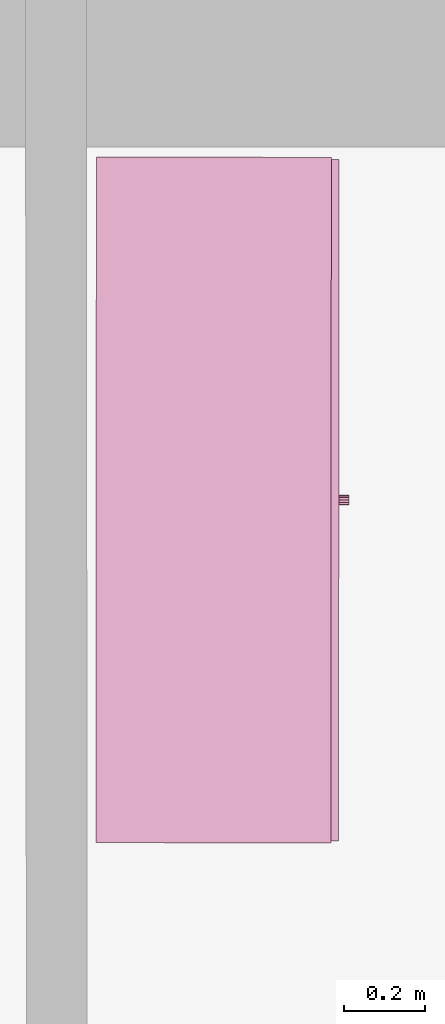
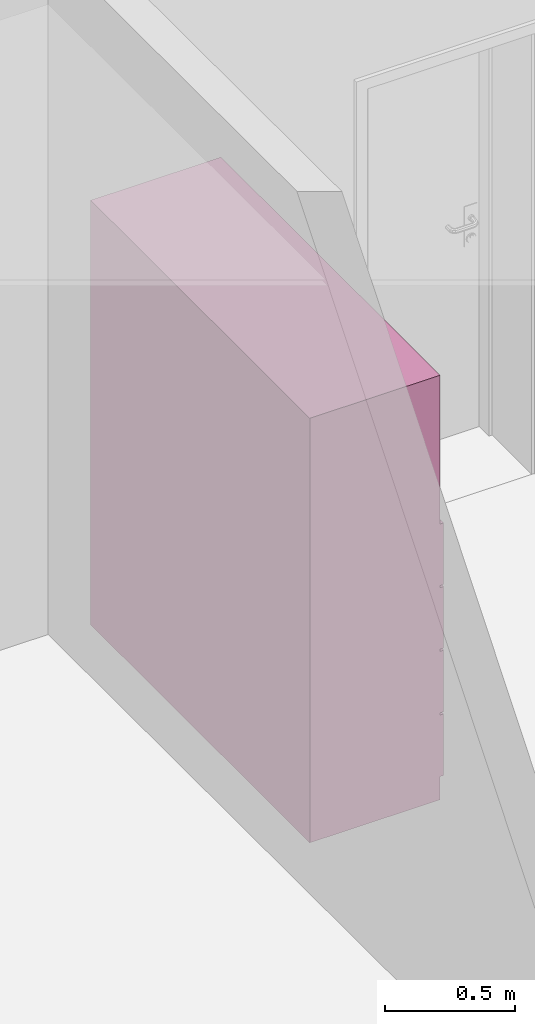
# One storey, part 138 of 194: 1 furnishing.
"""IFC2X3 building model written with IfcOpenShell, lengths in millimetres."""

from ifc_helpers import new_model, entity, si_unit, converted_unit, derived_unit, money_unit, direction, frame, origin_with_axes, place, context, subcontext, project, spatial, faceted_brep, source, transform, mapped, type_object, element, save


model = new_model("IFC2X3")

# Units and contexts
model_context = context("Model", 3, precision=1e-05, world=origin_with_axes(), true_north=direction((0.0, 1.0)))
body_context = subcontext(model_context, "Body", "Model", "MODEL_VIEW")
ifc_project = project(units=[si_unit("LENGTHUNIT", "METRE", prefix="MILLI"), si_unit("AREAUNIT", "SQUARE_METRE"), si_unit("VOLUMEUNIT", "CUBIC_METRE"), converted_unit("PLANEANGLEUNIT", "DEGREE", entity("IfcPlaneAngleMeasure", 0.0174532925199), si_unit("PLANEANGLEUNIT", "RADIAN"), dimensions=[0, 0, 0, 0, 0, 0, 0]), si_unit("SOLIDANGLEUNIT", "STERADIAN"), money_unit("EUR"), converted_unit("TIMEUNIT", "Year", entity("IfcTimeMeasure", 31556926.0), si_unit("TIMEUNIT", "SECOND"), dimensions=[0, 0, 1, 0, 0, 0, 0]), si_unit("MASSUNIT", "GRAM", prefix="KILO"), si_unit("THERMODYNAMICTEMPERATUREUNIT", "DEGREE_CELSIUS"), si_unit("LUMINOUSINTENSITYUNIT", "LUMEN"), si_unit("ENERGYUNIT", "JOULE", prefix="MEGA"), derived_unit("THERMALCONDUCTANCEUNIT", [(si_unit("POWERUNIT", "WATT"), 1), (si_unit("LENGTHUNIT", "METRE"), -1), (si_unit("THERMODYNAMICTEMPERATUREUNIT", "KELVIN"), -1)]), derived_unit("SPECIFICHEATCAPACITYUNIT", [(si_unit("ENERGYUNIT", "JOULE"), 1), (si_unit("MASSUNIT", "GRAM", prefix="KILO"), -1), (si_unit("THERMODYNAMICTEMPERATUREUNIT", "KELVIN"), -1)]), derived_unit("MASSDENSITYUNIT", [(si_unit("MASSUNIT", "GRAM", prefix="KILO"), 1), (si_unit("VOLUMEUNIT", "CUBIC_METRE"), -1)])], contexts=[model_context])

# Site, building, storey
site_placement = place(None, origin_with_axes())
site = spatial("IfcSite", under=ifc_project, at=site_placement, Name="Site", CompositionType="ELEMENT")
building_placement = place(site_placement, origin_with_axes())
building = spatial("IfcBuilding", under=site, at=building_placement, Name="Building", CompositionType="ELEMENT")
storey_placement = place(building_placement, frame((0.0, 0.0, 3000.0), z_axis=(0.0, 0.0, 1.0), x_axis=(1.0, 0.0, 0.0)))
storey = spatial("IfcBuildingStorey", under=building, at=storey_placement, Name="2 KORRUS", CompositionType="ELEMENT", Elevation=3000.0)

# Furnishing
furnishing_element_type = type_object("IfcFurnishingElementType", Name="Model Element 52")
shared_shape = source(origin_with_axes(), body_context, "Body", "Brep", [
    faceted_brep([(1693.4828307, 19.0, 0.0), (0.0, 19.0, 0.0), (0.0, 599.467164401, 0.0), (1693.4828307, 599.467164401, 0.0), (1693.4828307, 19.0, 100.0), (0.0, 19.0, 100.0), (0.0, 599.467164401, 100.0), (1693.4828307, 599.467164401, 100.0)], [[[0, 1, 2, 3]], [[1, 0, 4, 5]], [[2, 1, 5, 6]], [[3, 2, 6, 7]], [[0, 3, 7, 4]], [[5, 4, 7, 6]]]),
    faceted_brep([(19.0, 599.467164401, 119.0), (19.0, 580.467164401, 119.0), (19.0, 580.467164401, 1981.0), (19.0, 599.467164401, 1981.0), (1674.4828307, 599.467164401, 119.0), (1674.4828307, 580.467164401, 119.0), (1674.4828307, 580.467164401, 1981.0), (1674.4828307, 599.467164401, 1981.0)], [[[0, 1, 2, 3]], [[0, 4, 5, 1]], [[1, 5, 6, 2]], [[3, 2, 6, 7]], [[4, 0, 3, 7]], [[5, 4, 7, 6]]]),
    faceted_brep([(1693.4828307, 19.0, 100.0), (1674.4828307, 19.0, 100.0), (1674.4828307, 599.467164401, 100.0), (1693.4828307, 599.467164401, 100.0), (1693.4828307, 19.0, 2000.0), (1674.4828307, 19.0, 2000.0), (1674.4828307, 599.467164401, 2000.0), (1693.4828307, 599.467164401, 2000.0)], [[[0, 1, 2, 3]], [[1, 0, 4, 5]], [[2, 1, 5, 6]], [[3, 2, 6, 7]], [[0, 3, 7, 4]], [[5, 4, 7, 6]]]),
    faceted_brep([(19.0, 19.0, 100.0), (0.0, 19.0, 100.0), (0.0, 599.467164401, 100.0), (19.0, 599.467164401, 100.0), (19.0, 19.0, 2000.0), (0.0, 19.0, 2000.0), (0.0, 599.467164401, 2000.0), (19.0, 599.467164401, 2000.0)], [[[0, 1, 2, 3]], [[1, 0, 4, 5]], [[2, 1, 5, 6]], [[3, 2, 6, 7]], [[0, 3, 7, 4]], [[5, 4, 7, 6]]]),
    faceted_brep([(1674.4828307, 19.0, 100.0), (19.0, 19.0, 100.0), (19.0, 599.467164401, 100.0), (1674.4828307, 599.467164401, 100.0), (1674.4828307, 19.0, 119.0), (19.0, 19.0, 119.0), (19.0, 599.467164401, 119.0), (1674.4828307, 599.467164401, 119.0)], [[[0, 1, 2, 3]], [[1, 0, 4, 5]], [[2, 1, 5, 6]], [[3, 2, 6, 7]], [[0, 3, 7, 4]], [[5, 4, 7, 6]]]),
    faceted_brep([(1674.4828307, 19.0, 1981.0), (19.0, 19.0, 1981.0), (19.0, 599.467164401, 1981.0), (1674.4828307, 599.467164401, 1981.0), (1674.4828307, 19.0, 2000.0), (19.0, 19.0, 2000.0), (19.0, 599.467164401, 2000.0), (1674.4828307, 599.467164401, 2000.0)], [[[0, 1, 2, 3]], [[1, 0, 4, 5]], [[2, 1, 5, 6]], [[3, 2, 6, 7]], [[0, 3, 7, 4]], [[5, 4, 7, 6]]]),
    faceted_brep([(5.0, 19.0, 105.0), (1688.4828307, 19.0, 105.0), (1688.4828307, 0.0, 105.0), (5.0, 0.0, 105.0), (5.0, 19.0, 395.0), (1688.4828307, 19.0, 395.0), (1688.4828307, 0.0, 395.0), (5.0, 0.0, 395.0)], [[[0, 1, 2, 3]], [[0, 4, 5, 1]], [[1, 5, 6, 2]], [[3, 2, 6, 7]], [[4, 0, 3, 7]], [[5, 4, 7, 6]]]),
    faceted_brep([(857.133720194, 0.0, 244.0), (852.741415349, 0.0, 239.607695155), (846.741415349, 0.0, 238.0), (840.741415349, 0.0, 239.607695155), (836.349110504, 0.0, 244.0), (834.741415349, 0.0, 250.0), (836.349110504, 0.0, 256.0), (840.741415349, 0.0, 260.392304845), (846.741415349, 0.0, 262.0), (852.741415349, 0.0, 260.392304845), (857.133720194, 0.0, 256.0), (858.741415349, 0.0, 250.0), (857.133720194, -25.0, 244.0), (852.741415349, -25.0, 239.607695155), (846.741415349, -25.0, 238.0), (840.741415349, -25.0, 239.607695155), (836.349110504, -25.0, 244.0), (834.741415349, -25.0, 250.0), (836.349110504, -25.0, 256.0), (840.741415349, -25.0, 260.392304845), (846.741415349, -25.0, 262.0), (852.741415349, -25.0, 260.392304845), (857.133720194, -25.0, 256.0), (858.741415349, -25.0, 250.0)], [[[0, 1, 2, 3, 4, 5, 6, 7, 8, 9, 10, 11]], [[1, 0, 12, 13]], [[2, 1, 13, 14]], [[3, 2, 14, 15]], [[4, 3, 15, 16]], [[5, 4, 16, 17]], [[6, 5, 17, 18]], [[7, 6, 18, 19]], [[8, 7, 19, 20]], [[9, 8, 20, 21]], [[10, 9, 21, 22]], [[11, 10, 22, 23]], [[0, 11, 23, 12]], [[12, 23, 22, 21, 20, 19, 18, 17, 16, 15, 14, 13]]]),
    faceted_brep([(5.0, 19.0, 405.0), (1688.4828307, 19.0, 405.0), (1688.4828307, 0.0, 405.0), (5.0, 0.0, 405.0), (5.0, 19.0, 695.0), (1688.4828307, 19.0, 695.0), (1688.4828307, 0.0, 695.0), (5.0, 0.0, 695.0)], [[[0, 1, 2, 3]], [[0, 4, 5, 1]], [[1, 5, 6, 2]], [[3, 2, 6, 7]], [[4, 0, 3, 7]], [[5, 4, 7, 6]]]),
    faceted_brep([(857.133720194, 0.0, 544.0), (852.741415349, 0.0, 539.607695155), (846.741415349, 0.0, 538.0), (840.741415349, 0.0, 539.607695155), (836.349110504, 0.0, 544.0), (834.741415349, 0.0, 550.0), (836.349110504, 0.0, 556.0), (840.741415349, 0.0, 560.392304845), (846.741415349, 0.0, 562.0), (852.741415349, 0.0, 560.392304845), (857.133720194, 0.0, 556.0), (858.741415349, 0.0, 550.0), (857.133720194, -25.0, 544.0), (852.741415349, -25.0, 539.607695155), (846.741415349, -25.0, 538.0), (840.741415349, -25.0, 539.607695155), (836.349110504, -25.0, 544.0), (834.741415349, -25.0, 550.0), (836.349110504, -25.0, 556.0), (840.741415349, -25.0, 560.392304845), (846.741415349, -25.0, 562.0), (852.741415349, -25.0, 560.392304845), (857.133720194, -25.0, 556.0), (858.741415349, -25.0, 550.0)], [[[0, 1, 2, 3, 4, 5, 6, 7, 8, 9, 10, 11]], [[1, 0, 12, 13]], [[2, 1, 13, 14]], [[3, 2, 14, 15]], [[4, 3, 15, 16]], [[5, 4, 16, 17]], [[6, 5, 17, 18]], [[7, 6, 18, 19]], [[8, 7, 19, 20]], [[9, 8, 20, 21]], [[10, 9, 21, 22]], [[11, 10, 22, 23]], [[0, 11, 23, 12]], [[12, 23, 22, 21, 20, 19, 18, 17, 16, 15, 14, 13]]]),
    faceted_brep([(5.0, 19.0, 705.0), (1688.4828307, 19.0, 705.0), (1688.4828307, 0.0, 705.0), (5.0, 0.0, 705.0), (5.0, 19.0, 995.0), (1688.4828307, 19.0, 995.0), (1688.4828307, 0.0, 995.0), (5.0, 0.0, 995.0)], [[[0, 1, 2, 3]], [[0, 4, 5, 1]], [[1, 5, 6, 2]], [[3, 2, 6, 7]], [[4, 0, 3, 7]], [[5, 4, 7, 6]]]),
    faceted_brep([(857.133720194, 0.0, 844.0), (852.741415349, 0.0, 839.607695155), (846.741415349, 0.0, 838.0), (840.741415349, 0.0, 839.607695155), (836.349110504, 0.0, 844.0), (834.741415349, 0.0, 850.0), (836.349110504, 0.0, 856.0), (840.741415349, 0.0, 860.392304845), (846.741415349, 0.0, 862.0), (852.741415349, 0.0, 860.392304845), (857.133720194, 0.0, 856.0), (858.741415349, 0.0, 850.0), (857.133720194, -25.0, 844.0), (852.741415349, -25.0, 839.607695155), (846.741415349, -25.0, 838.0), (840.741415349, -25.0, 839.607695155), (836.349110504, -25.0, 844.0), (834.741415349, -25.0, 850.0), (836.349110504, -25.0, 856.0), (840.741415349, -25.0, 860.392304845), (846.741415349, -25.0, 862.0), (852.741415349, -25.0, 860.392304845), (857.133720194, -25.0, 856.0), (858.741415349, -25.0, 850.0)], [[[0, 1, 2, 3, 4, 5, 6, 7, 8, 9, 10, 11]], [[1, 0, 12, 13]], [[2, 1, 13, 14]], [[3, 2, 14, 15]], [[4, 3, 15, 16]], [[5, 4, 16, 17]], [[6, 5, 17, 18]], [[7, 6, 18, 19]], [[8, 7, 19, 20]], [[9, 8, 20, 21]], [[10, 9, 21, 22]], [[11, 10, 22, 23]], [[0, 11, 23, 12]], [[12, 23, 22, 21, 20, 19, 18, 17, 16, 15, 14, 13]]]),
    faceted_brep([(5.0, 19.0, 1005.0), (1688.4828307, 19.0, 1005.0), (1688.4828307, 0.0, 1005.0), (5.0, 0.0, 1005.0), (5.0, 19.0, 1295.0), (1688.4828307, 19.0, 1295.0), (1688.4828307, 0.0, 1295.0), (5.0, 0.0, 1295.0)], [[[0, 1, 2, 3]], [[0, 4, 5, 1]], [[1, 5, 6, 2]], [[3, 2, 6, 7]], [[4, 0, 3, 7]], [[5, 4, 7, 6]]]),
    faceted_brep([(857.133720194, 0.0, 1144.0), (852.741415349, 0.0, 1139.60769515), (846.741415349, 0.0, 1138.0), (840.741415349, 0.0, 1139.60769515), (836.349110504, 0.0, 1144.0), (834.741415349, 0.0, 1150.0), (836.349110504, 0.0, 1156.0), (840.741415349, 0.0, 1160.39230485), (846.741415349, 0.0, 1162.0), (852.741415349, 0.0, 1160.39230485), (857.133720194, 0.0, 1156.0), (858.741415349, 0.0, 1150.0), (857.133720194, -25.0, 1144.0), (852.741415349, -25.0, 1139.60769515), (846.741415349, -25.0, 1138.0), (840.741415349, -25.0, 1139.60769515), (836.349110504, -25.0, 1144.0), (834.741415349, -25.0, 1150.0), (836.349110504, -25.0, 1156.0), (840.741415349, -25.0, 1160.39230485), (846.741415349, -25.0, 1162.0), (852.741415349, -25.0, 1160.39230485), (857.133720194, -25.0, 1156.0), (858.741415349, -25.0, 1150.0)], [[[0, 1, 2, 3, 4, 5, 6, 7, 8, 9, 10, 11]], [[1, 0, 12, 13]], [[2, 1, 13, 14]], [[3, 2, 14, 15]], [[4, 3, 15, 16]], [[5, 4, 16, 17]], [[6, 5, 17, 18]], [[7, 6, 18, 19]], [[8, 7, 19, 20]], [[9, 8, 20, 21]], [[10, 9, 21, 22]], [[11, 10, 22, 23]], [[0, 11, 23, 12]], [[12, 23, 22, 21, 20, 19, 18, 17, 16, 15, 14, 13]]]),
    faceted_brep([(19.0, 19.0, 390.5), (1674.4828307, 19.0, 390.5), (1674.4828307, 19.0, 409.5), (19.0, 19.0, 409.5), (19.0, 580.467164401, 390.5), (1674.4828307, 580.467164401, 390.5), (1674.4828307, 580.467164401, 409.5), (19.0, 580.467164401, 409.5)], [[[0, 1, 2, 3]], [[0, 4, 5, 1]], [[1, 5, 6, 2]], [[3, 2, 6, 7]], [[4, 0, 3, 7]], [[5, 4, 7, 6]]]),
    faceted_brep([(19.0, 19.0, 690.5), (1674.4828307, 19.0, 690.5), (1674.4828307, 19.0, 709.5), (19.0, 19.0, 709.5), (19.0, 580.467164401, 690.5), (1674.4828307, 580.467164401, 690.5), (1674.4828307, 580.467164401, 709.5), (19.0, 580.467164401, 709.5)], [[[0, 1, 2, 3]], [[0, 4, 5, 1]], [[1, 5, 6, 2]], [[3, 2, 6, 7]], [[4, 0, 3, 7]], [[5, 4, 7, 6]]]),
    faceted_brep([(19.0, 19.0, 990.5), (1674.4828307, 19.0, 990.5), (1674.4828307, 19.0, 1009.5), (19.0, 19.0, 1009.5), (19.0, 580.467164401, 990.5), (1674.4828307, 580.467164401, 990.5), (1674.4828307, 580.467164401, 1009.5), (19.0, 580.467164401, 1009.5)], [[[0, 1, 2, 3]], [[0, 4, 5, 1]], [[1, 5, 6, 2]], [[3, 2, 6, 7]], [[4, 0, 3, 7]], [[5, 4, 7, 6]]]),
    faceted_brep([(19.0, 19.0, 1290.5), (1674.4828307, 19.0, 1290.5), (1674.4828307, 19.0, 1309.5), (19.0, 19.0, 1309.5), (19.0, 580.467164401, 1290.5), (1674.4828307, 580.467164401, 1290.5), (1674.4828307, 580.467164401, 1309.5), (19.0, 580.467164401, 1309.5)], [[[0, 1, 2, 3]], [[0, 4, 5, 1]], [[1, 5, 6, 2]], [[3, 2, 6, 7]], [[4, 0, 3, 7]], [[5, 4, 7, 6]]]),
    faceted_brep([(1674.4828307, 19.0, 1463.125), (19.0, 19.0, 1463.125), (19.0, 580.467164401, 1463.125), (1674.4828307, 580.467164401, 1463.125), (1674.4828307, 19.0, 1482.125), (19.0, 19.0, 1482.125), (19.0, 580.467164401, 1482.125), (1674.4828307, 580.467164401, 1482.125)], [[[0, 1, 2, 3]], [[1, 0, 4, 5]], [[2, 1, 5, 6]], [[3, 2, 6, 7]], [[0, 3, 7, 4]], [[5, 4, 7, 6]]]),
    faceted_brep([(1674.4828307, 19.0, 1635.75), (19.0, 19.0, 1635.75), (19.0, 580.467164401, 1635.75), (1674.4828307, 580.467164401, 1635.75), (1674.4828307, 19.0, 1654.75), (19.0, 19.0, 1654.75), (19.0, 580.467164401, 1654.75), (1674.4828307, 580.467164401, 1654.75)], [[[0, 1, 2, 3]], [[1, 0, 4, 5]], [[2, 1, 5, 6]], [[3, 2, 6, 7]], [[0, 3, 7, 4]], [[5, 4, 7, 6]]]),
    faceted_brep([(1674.4828307, 19.0, 1808.375), (19.0, 19.0, 1808.375), (19.0, 580.467164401, 1808.375), (1674.4828307, 580.467164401, 1808.375), (1674.4828307, 19.0, 1827.375), (19.0, 19.0, 1827.375), (19.0, 580.467164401, 1827.375), (1674.4828307, 580.467164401, 1827.375)], [[[0, 1, 2, 3]], [[1, 0, 4, 5]], [[2, 1, 5, 6]], [[3, 2, 6, 7]], [[0, 3, 7, 4]], [[5, 4, 7, 6]]]),
])
furnishing_placement = place(storey_placement, frame((79776.0263905, 38863.755049, 0.0), z_axis=(0.0, 0.0, 1.0), x_axis=(0.00064265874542, 0.999999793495, 0.0)))
element("IfcFurnishingElement", 1, at=furnishing_placement, inside=storey, type_object=furnishing_element_type, Name="FU - 001", context=body_context, shape_type="MappedRepresentation", body=[
    mapped(shared_shape, transform((0.0, 0.0, 0.0))),
])

save(model, "model.ifc")
